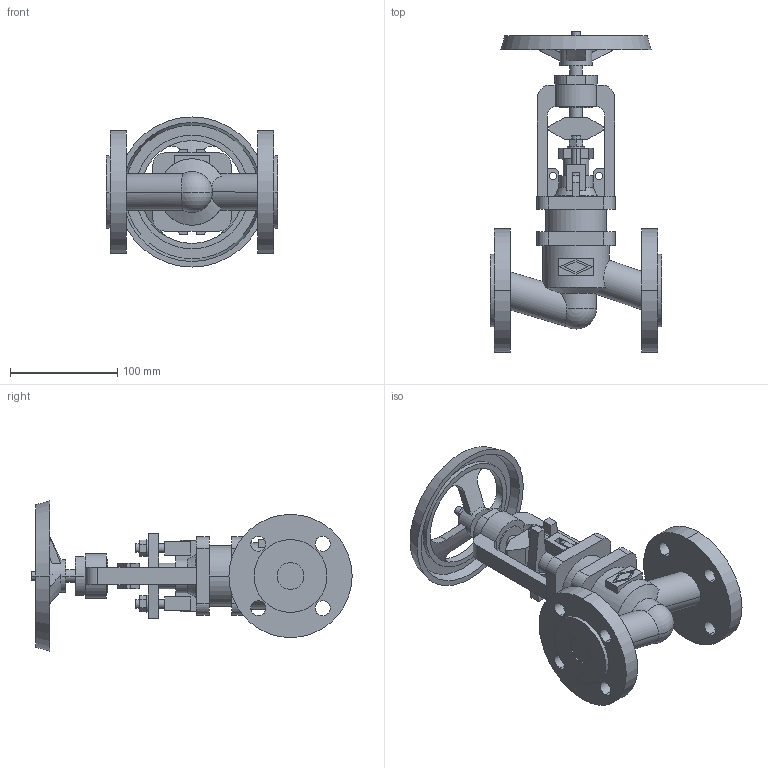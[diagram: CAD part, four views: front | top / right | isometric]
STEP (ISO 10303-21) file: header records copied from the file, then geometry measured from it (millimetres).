
FILE_DESCRIPTION(('OneSpaceDesigner STEP Export'),'2;1');
FILE_NAME('c000003748.stp','2009-06-16T10:58:50',(''),(''),'OneSpace Designer STEP processor for AP214 (Solid Model)','OneSpace Modeling 15.50B 03-Nov-2007 (C) CoCreate Software GmbH','');
FILE_SCHEMA(('AUTOMOTIVE_DESIGN { 1 0 10303 214 1 1 1 1 }'));
Length unit declared in the file: millimetre
Products named in the file (1): 1
Bounding box: 160 x 298.9 x 140 mm (x, y, z)
Volume: 974373.3 mm3; surface area: 172636.7 mm2
Topology: 1 solids, 1 shells, 283 faces, 740 edges, 485 vertices
Faces by surface type: plane 148, cylinder 109, cone 20, torus 4, sphere 2
Entity records: 10845 total; most frequent: CARTESIAN_POINT 1927, ORIENTED_EDGE 1476, DIRECTION 1241, EDGE_CURVE 738, VERTEX_POINT 485, VECTOR 433, LINE 433, AXIS2_PLACEMENT_3D 404
